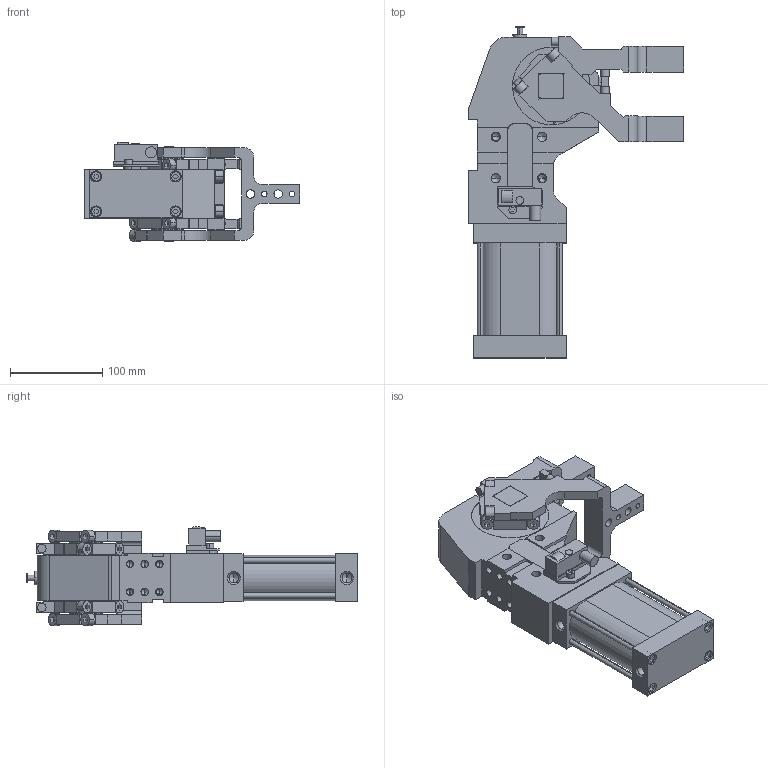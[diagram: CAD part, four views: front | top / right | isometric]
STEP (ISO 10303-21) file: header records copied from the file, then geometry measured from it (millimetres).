
FILE_DESCRIPTION (( 'STEP AP214' ), '1' );
FILE_NAME ('dl63a1c_i.STEP', '2014-03-17T09:14:41', ( 'vep' ), ( 'TOSHIBA' ), 'SwSTEP 2.0', 'SolidWorks 2013', '' );
FILE_SCHEMA (( 'AUTOMOTIVE_DESIGN' ));
Length unit declared in the file: millimetre
Products named in the file (8): leva_superiore_dl63; tassello_fermo_leva_dl63; blocchetto_p&f_90; dl63a1c_i; fc_induttivo_dl63; riparo_laterale_dl63; leva_inferiore_dl63; gruppo_montante_dl63
Assembly tree (7 placements, depth 2):
  dl63a1c_i
    gruppo_montante_dl63
    riparo_laterale_dl63
    fc_induttivo_dl63
    blocchetto_p&f_90
    tassello_fermo_leva_dl63
    leva_superiore_dl63
    leva_inferiore_dl63
Bounding box: 233.5 x 359.5 x 107.3 mm (x, y, z)
Volume: 2129535.4 mm3; surface area: 283921.1 mm2
Topology: 7 solids, 7 shells, 759 faces, 2035 edges, 1297 vertices
Faces by surface type: plane 482, cylinder 229, cone 48
Entity records: 24899 total; most frequent: CARTESIAN_POINT 4081, DIRECTION 4081, ORIENTED_EDGE 3982, EDGE_CURVE 1991, LINE 1423, VECTOR 1423, AXIS2_PLACEMENT_3D 1329, VERTEX_POINT 1297
